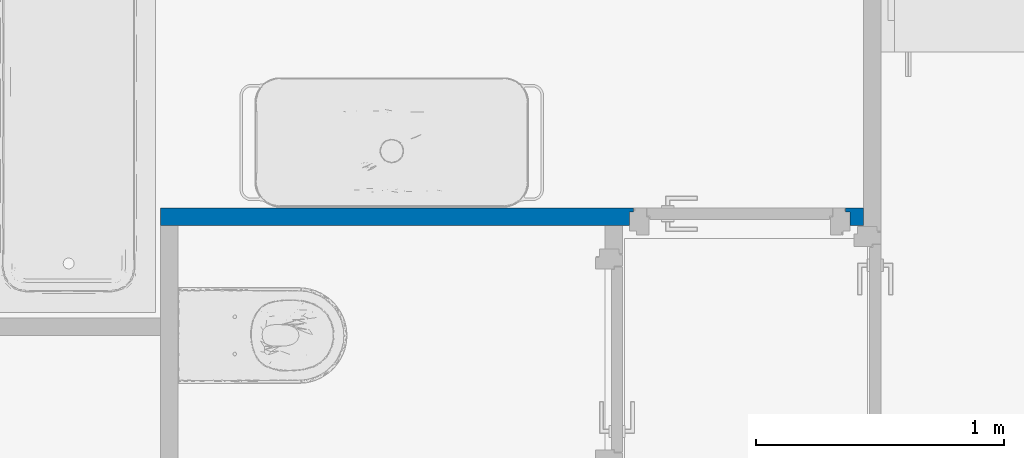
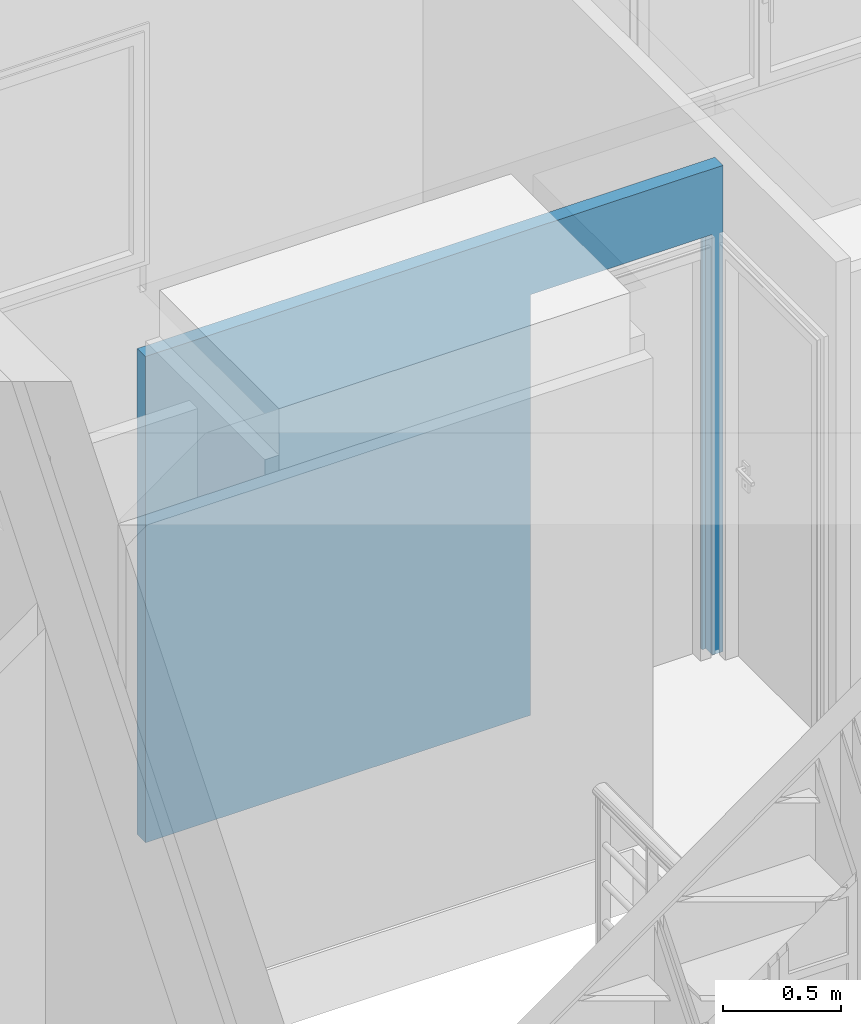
# One storey, part 43 of 61: 1 wall, 1 opening.
"""IFC2X3 building model written with IfcOpenShell, lengths in metres."""

from ifc_helpers import new_model, entity, si_unit, converted_unit, derived_unit, direction, frame, frame_2d, origin, place, context, subcontext, project, spatial, rectangle, extrude, faceted_brep, material, layer, layer_set, layer_usage, type_object, element, save


model = new_model("IFC2X3")

# Units and contexts
model_context = context("Model", 3, precision=1e-05, world=origin(), true_north=direction((6.12303176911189e-17, 1.0)))
body_context = subcontext(model_context, "Body", "Model", "MODEL_VIEW")
ifc_project = project(units=[si_unit("LENGTHUNIT", "METRE"), si_unit("AREAUNIT", "SQUARE_METRE"), si_unit("VOLUMEUNIT", "CUBIC_METRE"), converted_unit("PLANEANGLEUNIT", "DEGREE", entity("IfcRatioMeasure", 0.0174532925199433), si_unit("PLANEANGLEUNIT", "RADIAN"), dimensions=[0, 0, 0, 0, 0, 0, 0]), si_unit("MASSUNIT", "GRAM", prefix="KILO"), derived_unit("MASSDENSITYUNIT", [(si_unit("MASSUNIT", "GRAM", prefix="KILO"), 1), (si_unit("LENGTHUNIT", "METRE"), -3)]), si_unit("TIMEUNIT", "SECOND"), si_unit("FREQUENCYUNIT", "HERTZ"), si_unit("THERMODYNAMICTEMPERATUREUNIT", "DEGREE_CELSIUS"), derived_unit("THERMALTRANSMITTANCEUNIT", [(si_unit("MASSUNIT", "GRAM", prefix="KILO"), 1), (si_unit("THERMODYNAMICTEMPERATUREUNIT", "KELVIN"), -1), (si_unit("TIMEUNIT", "SECOND"), -3)]), derived_unit("VOLUMETRICFLOWRATEUNIT", [(si_unit("LENGTHUNIT", "METRE"), 3), (si_unit("TIMEUNIT", "SECOND"), -1)]), si_unit("ELECTRICCURRENTUNIT", "AMPERE"), si_unit("ELECTRICVOLTAGEUNIT", "VOLT"), si_unit("POWERUNIT", "WATT"), si_unit("FORCEUNIT", "NEWTON", prefix="KILO"), si_unit("ILLUMINANCEUNIT", "LUX"), si_unit("LUMINOUSFLUXUNIT", "LUMEN"), si_unit("LUMINOUSINTENSITYUNIT", "CANDELA"), derived_unit("USERDEFINED", [(si_unit("MASSUNIT", "GRAM", prefix="KILO"), -1), (si_unit("LENGTHUNIT", "METRE"), -2), (si_unit("TIMEUNIT", "SECOND"), 3), (si_unit("LUMINOUSFLUXUNIT", "LUMEN"), 1)]), derived_unit("LINEARVELOCITYUNIT", [(si_unit("LENGTHUNIT", "METRE"), 1), (si_unit("TIMEUNIT", "SECOND"), -1)]), si_unit("PRESSUREUNIT", "PASCAL"), derived_unit("USERDEFINED", [(si_unit("LENGTHUNIT", "METRE"), -2), (si_unit("MASSUNIT", "GRAM", prefix="KILO"), 1), (si_unit("TIMEUNIT", "SECOND"), -2)])], contexts=[model_context])

# Site, building, storey
site_placement = place(None, origin())
site = spatial("IfcSite", under=ifc_project, at=site_placement, Name="Surface", CompositionType="ELEMENT")
building_placement = place(site_placement, origin())
building = spatial("IfcBuilding", under=site, at=building_placement, CompositionType="ELEMENT")
storey_placement = place(building_placement, frame((0.0, 0.0, 2.82)))
storey = spatial("IfcBuildingStorey", under=building, at=storey_placement, Name="ETAGE", CompositionType="ELEMENT", Elevation=2.82)

# Wall, opening
ifc_material = material(Name="Peinture - Blanc")
ifc_layer = layer(ifc_material, 0.07)
ifc_layer_set = layer_set([ifc_layer], Name="Mur de base:Int.  Platre 70 mm en blanc")
ifc_layer_usage = layer_usage(ifc_layer_set, "AXIS2", "NEGATIVE", 0.035)
wall_type = type_object("IfcWallType", Name="Mur de base:Int.  Platre 70 mm en blanc", PredefinedType="STANDARD", material=ifc_layer_set)
wall_placement = place(storey_placement, frame((84.6467857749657, 89.6325239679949, 0.0)))
wall = element("IfcWallStandardCase", 1, at=wall_placement, inside=storey, type_object=wall_type, material=ifc_layer_usage, Name="Mur de base:Int.  Platre 70 mm en blanc", ObjectType="Mur de base:Int.  Platre 70 mm en blanc", context=body_context, shape_type="SweptSolid", body=[
    extrude(rectangle(XDim=2.83211659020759, YDim=0.0699999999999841, at=frame_2d((1.41605829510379, -1.85268467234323e-15), x_axis=(-1.0, 0.0))), origin(), (0.0, 0.0, 1.0), 2.52),
])
opening_placement = place(wall_placement, frame((1.88855829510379, -0.678399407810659, 0.0)))
element("IfcOpeningElement", 2, at=opening_placement, cuts=wall, Name="Mur de base:Int.  Platre 70 mm en blanc", ObjectType="Opening", context=body_context, shape_type="Brep", body=[
    faceted_brep([(0.810000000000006, 0.893399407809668, 2.09999999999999), (0.810000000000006, 0.893399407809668, 0.0), (0.0799999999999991, 0.893399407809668, 0.0), (0.0799999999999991, 0.893399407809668, 2.09999999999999), (0.810000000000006, 0.0, 2.09999999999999), (0.0799999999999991, 0.0, 2.09999999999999), (0.0799999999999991, 0.0, 0.0), (0.810000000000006, 0.0, 0.0), (0.810000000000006, 0.713399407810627, 2.09999999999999), (0.810000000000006, 0.713399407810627, 0.0), (0.871999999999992, 0.713399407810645, 0.0), (0.871999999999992, 0.698399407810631, 0.0), (0.890000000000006, 0.698399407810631, 0.0), (0.890000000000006, 0.620399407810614, 0.0), (0.860999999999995, 0.620399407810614, 0.0), (0.860999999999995, 0.643399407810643, 0.0), (0.810000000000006, 0.643399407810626, 0.0), (0.0799999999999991, 0.643399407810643, 0.0), (0.0290000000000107, 0.643399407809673, 0.0), (0.0290000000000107, 0.620399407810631, 0.0), (0.0, 0.620399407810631, 0.0), (0.0, 0.698399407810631, 0.0), (0.0180000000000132, 0.698399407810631, 0.0), (0.0180000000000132, 0.713399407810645, 0.0), (0.0800000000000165, 0.713399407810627, 0.0), (0.0800000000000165, 0.713399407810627, 2.09999999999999), (0.860999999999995, 0.643399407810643, 2.15099999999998), (0.0290000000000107, 0.643399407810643, 2.15099999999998), (0.0799999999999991, 0.643399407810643, 2.09999999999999), (0.069000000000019, 0.643399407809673, 2.09999999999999), (0.0690000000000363, 0.643399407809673, 2.11099999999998), (0.821000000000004, 0.643399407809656, 2.11099999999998), (0.820999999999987, 0.643399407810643, 2.09999999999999), (0.810000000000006, 0.643399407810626, 2.09999999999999), (0.0180000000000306, 0.713399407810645, 2.16199999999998), (0.87200000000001, 0.713399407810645, 2.16199999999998), (0.821000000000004, 0.6428994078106, 2.09999999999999), (0.821000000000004, 0.6428994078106, 2.11099999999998), (0.069000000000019, 0.642899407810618, 2.11099999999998), (0.069000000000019, 0.642899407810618, 2.09999999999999), (0.0800000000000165, 0.6428994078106, 2.09999999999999), (0.810000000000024, 0.6428994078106, 2.09999999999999), (0.87200000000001, 0.698399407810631, 2.16199999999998), (0.0180000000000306, 0.698399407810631, 2.16199999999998), (0.0, 0.698399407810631, 2.17999999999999), (0.890000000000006, 0.698399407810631, 2.17999999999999), (0.890000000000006, 0.620399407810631, 2.17999999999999), (0.0, 0.620399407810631, 2.17999999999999), (0.0290000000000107, 0.620399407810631, 2.15099999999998), (0.860999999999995, 0.620399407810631, 2.15099999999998)], [[[0, 1, 2, 3]], [[4, 5, 6, 7]], [[0, 8, 9, 1]], [[1, 9, 10, 11, 12, 13, 14, 15, 16, 7, 6, 17, 18, 19, 20, 21, 22, 23, 24, 2]], [[2, 24, 25, 3]], [[3, 25, 8, 0]], [[15, 26, 27, 18, 17, 28, 29, 30, 31, 32, 33, 16]], [[9, 8, 25, 24, 23, 34, 35, 10]], [[36, 32, 31, 37]], [[38, 30, 29, 39]], [[37, 31, 30, 38]], [[39, 40, 41, 36, 37, 38]], [[41, 33, 32, 36]], [[10, 35, 42, 11]], [[11, 42, 43, 22, 21, 44, 45, 12]], [[12, 45, 46, 13]], [[13, 46, 47, 20, 19, 48, 49, 14]], [[14, 49, 26, 15]], [[34, 43, 42, 35]], [[44, 47, 46, 45]], [[26, 49, 48, 27]], [[23, 22, 43, 34]], [[21, 20, 47, 44]], [[27, 48, 19, 18]], [[39, 29, 28, 40]], [[4, 41, 40, 5]], [[5, 40, 28, 17, 6]], [[7, 16, 33, 41, 4]]]),
])

save(model, "model.ifc")
